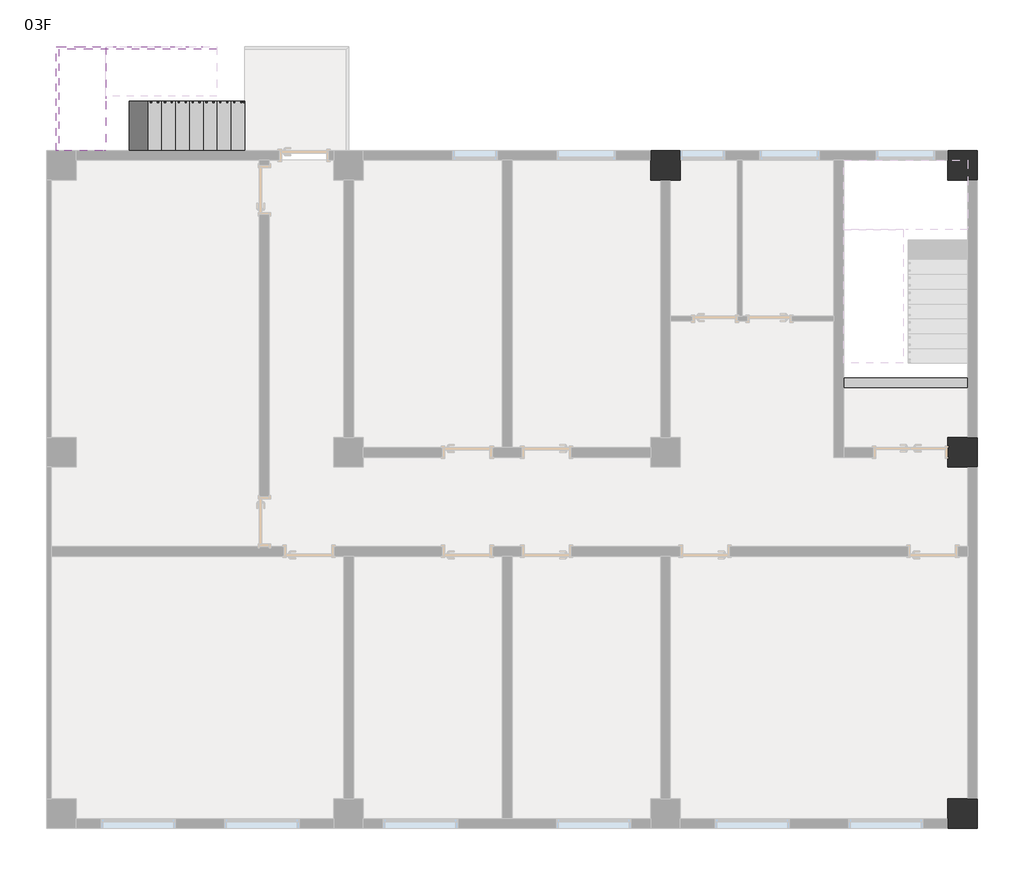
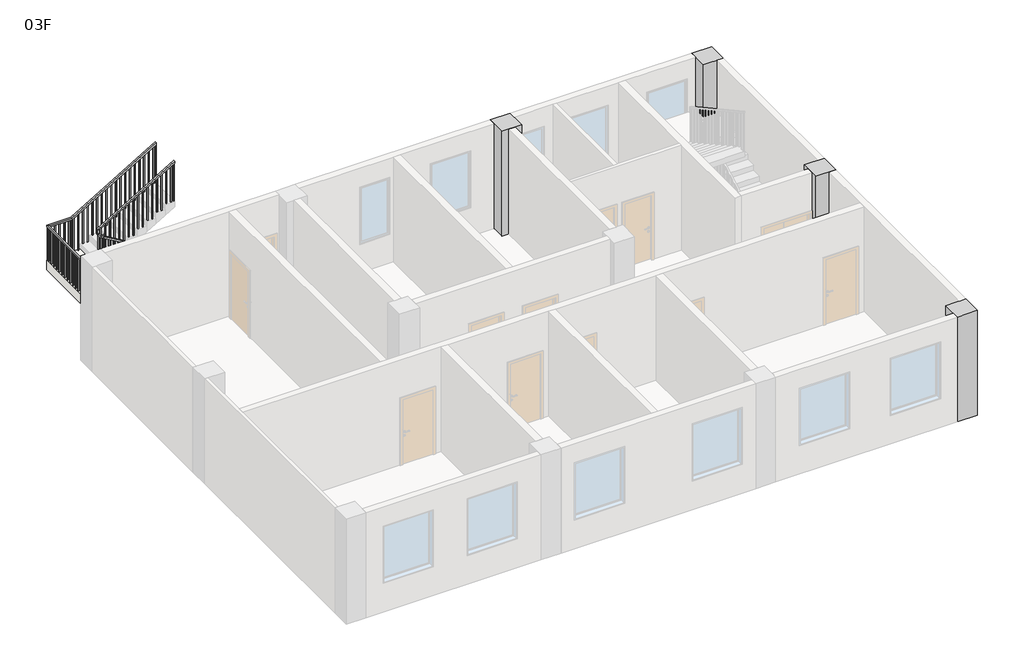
# One storey, part 2 of 3: 4 columns, 2 railings, 1 beam, 1 slab, 1 stair flight.
"""IFC4 building model written with IfcOpenShell, lengths in millimetres."""

from ifc_helpers import new_model, si_unit, frame, origin, place, context, project, spatial, polyline, outline, extrude, faceted_brep, transform, mapped, element, save
from components import beam_200_x_350mm_bc6e23a3, column_600_x_600mm_15ef50ab

model = new_model("IFC4")

# Units and contexts
model_context = context("Model", 3, world=origin())
ifc_project = project(units=[si_unit("LENGTHUNIT", "METRE", prefix="MILLI")], contexts=[model_context])

# Site, building, storey
site = spatial("IfcSite", under=ifc_project)
building = spatial("IfcBuilding", under=site)
storey = spatial("IfcBuildingStorey", under=building, Name="03F", Elevation=7200.0)

# Beam
placement = place(None, origin())
beam_200_x_350mm_shape = beam_200_x_350mm_bc6e23a3(model_context)
element("IfcBeam", 1, ObjectType="混凝土 - 矩形梁 : 200 x 350mm", at=placement, inside=storey, context=model_context, shape_type="MappedRepresentation", body=[
    mapped(beam_200_x_350mm_shape, transform((17250.0, 8900.0, 7025.0), x_axis=(1.0, 0.0, 0.0), y_axis=(0.0, 1.0, 0.0), z_axis=(0.0, 0.0, 1.0))),
])

# Columns
column_600_x_600mm_shape = column_600_x_600mm_15ef50ab(model_context)
element("IfcColumn", 2, ObjectType="混凝土 - 矩形 - 柱 : 600 x 600mm", at=placement, inside=storey, context=model_context, shape_type="MappedRepresentation", body=[
    mapped(column_600_x_600mm_shape, transform((12400.0, 13300.0, 0.0), x_axis=(1.0, 0.0, 0.0), y_axis=(0.0, 1.0, 0.0), z_axis=(0.0, 0.0, 1.0))),
])
element("IfcColumn", 3, ObjectType="混凝土 - 矩形 - 柱 : 600 x 600mm", at=placement, inside=storey, context=model_context, shape_type="MappedRepresentation", body=[
    mapped(column_600_x_600mm_shape, transform((18400.0, 13300.0, 0.0), x_axis=(1.0, 0.0, 0.0), y_axis=(0.0, 1.0, 0.0), z_axis=(0.0, 0.0, 1.0))),
])
element("IfcColumn", 4, ObjectType="混凝土 - 矩形 - 柱 : 600 x 600mm", at=placement, inside=storey, context=model_context, shape_type="MappedRepresentation", body=[
    mapped(column_600_x_600mm_shape, transform((18400.0, 7500.0, 0.0), x_axis=(1.0, 0.0, 0.0), y_axis=(0.0, 1.0, 0.0), z_axis=(0.0, 0.0, 1.0))),
])
element("IfcColumn", 5, ObjectType="混凝土 - 矩形 - 柱 : 600 x 600mm", at=placement, inside=storey, context=model_context, shape_type="MappedRepresentation", body=[
    mapped(column_600_x_600mm_shape, transform((18400.0, 200.0, 0.0), x_axis=(1.0, 0.0, 0.0), y_axis=(0.0, 1.0, 0.0), z_axis=(0.0, 0.0, 1.0))),
])

# Railings
element("IfcRailing", 6, ObjectType="1100mm", at=placement, inside=storey, context=model_context, shape_type="SolidModel", body=[
    faceted_brep([(3900.0, 14549.6, 8465.0), (3900.0, 14549.6, 8406.9642857), (3900.0, 14599.6, 8406.9642857), (3900.0, 14599.6, 8465.0), (1174.6, 14549.6, 10071.0392857), (1124.6, 14549.6, 10042.4678571), (1124.6, 14599.6, 10042.4678571), (1174.6, 14599.6, 10071.0392857), (1174.6, 14549.6, 10115.0), (1124.6, 14549.6, 10065.0), (1124.6, 14599.6, 10065.0), (1174.6, 14599.6, 10115.0), (1049.6, 14549.6, 10115.0), (1049.6, 14549.6, 10065.0), (1099.6, 14599.6, 10065.0), (1099.6, 14599.6, 10115.0), (1049.6, 14674.6, 10115.0), (1049.6, 14674.6, 10065.0), (1099.6, 14674.6, 10065.0), (1099.6, 14674.6, 10115.0), (1049.6, 14700.4, 10115.0), (1099.6, 14700.4, 10115.0), (1099.6, 14750.4, 10065.0), (1049.6, 14750.4, 10065.0)], [[[0, 1, 2, 3]], [[1, 0, 4, 5]], [[2, 1, 5, 6]], [[3, 2, 6, 7]], [[0, 3, 7, 4]], [[5, 4, 8, 9]], [[6, 5, 9, 10]], [[7, 6, 10, 11]], [[4, 7, 11, 8]], [[9, 8, 12, 13]], [[10, 9, 13, 14]], [[11, 10, 14, 15]], [[8, 11, 15, 12]], [[13, 12, 16, 17]], [[14, 13, 17, 18]], [[15, 14, 18, 19]], [[12, 15, 19, 16]], [[20, 21, 22, 23]], [[17, 16, 20, 23]], [[18, 17, 23, 22]], [[19, 18, 22, 21]], [[16, 19, 21, 20]]]),
    faceted_brep([(1049.6, 14700.4, 10115.0), (1049.6, 14750.4, 10065.0), (1099.6, 14750.4, 10065.0), (1099.6, 14700.4, 10115.0), (1049.6, 14700.4, 10250.3), (1099.6, 14700.4, 10221.7285714), (1099.6, 14750.4, 10221.7285714), (1049.6, 14750.4, 10250.3)], [[[0, 1, 2, 3]], [[4, 5, 6, 7]], [[1, 0, 4, 7]], [[2, 1, 7, 6]], [[3, 2, 6, 5]], [[0, 3, 5, 4]]]),
    faceted_brep([(1049.6, 14750.4, 10250.3), (1099.6, 14750.4, 10221.7285714), (1099.6, 14700.4, 10221.7285714), (1049.6, 14700.4, 10250.3), (3340.0, 14750.4, 11600.0), (3340.0, 14700.4, 11600.0), (3340.0, 14700.4, 11541.9642857), (3340.0, 14750.4, 11541.9642857)], [[[0, 1, 2, 3]], [[4, 5, 6, 7]], [[1, 0, 4, 7]], [[2, 1, 7, 6]], [[3, 2, 6, 5]], [[0, 3, 5, 4]]]),
    extrude(outline(polyline([(11478.3803571, 3232.1), (10335.0, 3232.1), (10335.0, 3257.1), (11493.1125, 3257.1), (11478.3803571, 3232.1)])), frame((0.0, 14712.9, 0.0), z_axis=(0.0, 1.0, 0.0), x_axis=(0.0, 0.0, 1.0)), (0.0, 0.0, 1.0), 25.0),
    extrude(outline(polyline([(11395.8803571, 3092.1), (10335.0, 3092.1), (10335.0, 3117.1), (11410.6125, 3117.1), (11395.8803571, 3092.1)])), frame((0.0, 14712.9, 0.0), z_axis=(0.0, 1.0, 0.0), x_axis=(0.0, 0.0, 1.0)), (0.0, 0.0, 1.0), 25.0),
    extrude(outline(polyline([(11313.3803571, 2952.1), (10170.0, 2952.1), (10170.0, 2977.1), (11328.1125, 2977.1), (11313.3803571, 2952.1)])), frame((0.0, 14712.9, 0.0), z_axis=(0.0, 1.0, 0.0), x_axis=(0.0, 0.0, 1.0)), (0.0, 0.0, 1.0), 25.0),
    extrude(outline(polyline([(11230.8803571, 2812.1), (10170.0, 2812.1), (10170.0, 2837.1), (11245.6125, 2837.1), (11230.8803571, 2812.1)])), frame((0.0, 14712.9, 0.0), z_axis=(0.0, 1.0, 0.0), x_axis=(0.0, 0.0, 1.0)), (0.0, 0.0, 1.0), 25.0),
    extrude(outline(polyline([(11148.3803571, 2672.1), (10005.0, 2672.1), (10005.0, 2697.1), (11163.1125, 2697.1), (11148.3803571, 2672.1)])), frame((0.0, 14712.9, 0.0), z_axis=(0.0, 1.0, 0.0), x_axis=(0.0, 0.0, 1.0)), (0.0, 0.0, 1.0), 25.0),
    extrude(outline(polyline([(11065.8803571, 2532.1), (10005.0, 2532.1), (10005.0, 2557.1), (11080.6125, 2557.1), (11065.8803571, 2532.1)])), frame((0.0, 14712.9, 0.0), z_axis=(0.0, 1.0, 0.0), x_axis=(0.0, 0.0, 1.0)), (0.0, 0.0, 1.0), 25.0),
    extrude(outline(polyline([(10983.3803571, 2392.1), (9840.0, 2392.1), (9840.0, 2417.1), (10998.1125, 2417.1), (10983.3803571, 2392.1)])), frame((0.0, 14712.9, 0.0), z_axis=(0.0, 1.0, 0.0), x_axis=(0.0, 0.0, 1.0)), (0.0, 0.0, 1.0), 25.0),
    extrude(outline(polyline([(10900.8803571, 2252.1), (9840.0, 2252.1), (9840.0, 2277.1), (10915.6125, 2277.1), (10900.8803571, 2252.1)])), frame((0.0, 14712.9, 0.0), z_axis=(0.0, 1.0, 0.0), x_axis=(0.0, 0.0, 1.0)), (0.0, 0.0, 1.0), 25.0),
    extrude(outline(polyline([(10818.3803571, 2112.1), (9675.0, 2112.1), (9675.0, 2137.1), (10833.1125, 2137.1), (10818.3803571, 2112.1)])), frame((0.0, 14712.9, 0.0), z_axis=(0.0, 1.0, 0.0), x_axis=(0.0, 0.0, 1.0)), (0.0, 0.0, 1.0), 25.0),
    extrude(outline(polyline([(10735.8803571, 1972.1), (9675.0, 1972.1), (9675.0, 1997.1), (10750.6125, 1997.1), (10735.8803571, 1972.1)])), frame((0.0, 14712.9, 0.0), z_axis=(0.0, 1.0, 0.0), x_axis=(0.0, 0.0, 1.0)), (0.0, 0.0, 1.0), 25.0),
    extrude(outline(polyline([(10653.3803571, 1832.1), (9510.0, 1832.1), (9510.0, 1857.1), (10668.1125, 1857.1), (10653.3803571, 1832.1)])), frame((0.0, 14712.9, 0.0), z_axis=(0.0, 1.0, 0.0), x_axis=(0.0, 0.0, 1.0)), (0.0, 0.0, 1.0), 25.0),
    extrude(outline(polyline([(10570.8803571, 1692.1), (9510.0, 1692.1), (9510.0, 1717.1), (10585.6125, 1717.1), (10570.8803571, 1692.1)])), frame((0.0, 14712.9, 0.0), z_axis=(0.0, 1.0, 0.0), x_axis=(0.0, 0.0, 1.0)), (0.0, 0.0, 1.0), 25.0),
    extrude(outline(polyline([(10488.3803571, 1552.1), (9345.0, 1552.1), (9345.0, 1577.1), (10503.1125, 1577.1), (10488.3803571, 1552.1)])), frame((0.0, 14712.9, 0.0), z_axis=(0.0, 1.0, 0.0), x_axis=(0.0, 0.0, 1.0)), (0.0, 0.0, 1.0), 25.0),
    extrude(outline(polyline([(10405.8803571, 1412.1), (9345.0, 1412.1), (9345.0, 1437.1), (10420.6125, 1437.1), (10405.8803571, 1412.1)])), frame((0.0, 14712.9, 0.0), z_axis=(0.0, 1.0, 0.0), x_axis=(0.0, 0.0, 1.0)), (0.0, 0.0, 1.0), 25.0),
    extrude(outline(polyline([(10323.3803571, 1272.1), (9180.0, 1272.1), (9180.0, 1297.1), (10338.1125, 1297.1), (10323.3803571, 1272.1)])), frame((0.0, 14712.9, 0.0), z_axis=(0.0, 1.0, 0.0), x_axis=(0.0, 0.0, 1.0)), (0.0, 0.0, 1.0), 25.0),
    extrude(outline(polyline([(10240.8803571, 1132.1), (9180.0, 1132.1), (9180.0, 1157.1), (10255.6125, 1157.1), (10240.8803571, 1132.1)])), frame((0.0, 14712.9, 0.0), z_axis=(0.0, 1.0, 0.0), x_axis=(0.0, 0.0, 1.0)), (0.0, 0.0, 1.0), 25.0),
    extrude(outline(polyline([(1087.1, 14632.1), (1062.1, 14632.1), (1062.1, 14657.1), (1087.1, 14657.1), (1087.1, 14632.1)])), frame((0.0, 0.0, 9015.0), z_axis=(0.0, 0.0, 1.0), x_axis=(1.0, 0.0, 0.0)), (0.0, 0.0, 1.0), 1050.0),
    extrude(outline(polyline([(8850.0, 1182.5), (10008.3482143, 1182.5), (10023.0803571, 1157.5), (8850.0, 1157.5), (8850.0, 1182.5)])), frame((0.0, 14562.1, 0.0), z_axis=(0.0, 1.0, 0.0), x_axis=(0.0, 0.0, 1.0)), (0.0, 0.0, 1.0), 25.0),
    extrude(outline(polyline([(8850.0, 1322.5), (9925.8482143, 1322.5), (9940.5803571, 1297.5), (8850.0, 1297.5), (8850.0, 1322.5)])), frame((0.0, 14562.1, 0.0), z_axis=(0.0, 1.0, 0.0), x_axis=(0.0, 0.0, 1.0)), (0.0, 0.0, 1.0), 25.0),
    extrude(outline(polyline([(8685.0, 1462.5), (9843.3482143, 1462.5), (9858.0803571, 1437.5), (8685.0, 1437.5), (8685.0, 1462.5)])), frame((0.0, 14562.1, 0.0), z_axis=(0.0, 1.0, 0.0), x_axis=(0.0, 0.0, 1.0)), (0.0, 0.0, 1.0), 25.0),
    extrude(outline(polyline([(8685.0, 1602.5), (9760.8482143, 1602.5), (9775.5803571, 1577.5), (8685.0, 1577.5), (8685.0, 1602.5)])), frame((0.0, 14562.1, 0.0), z_axis=(0.0, 1.0, 0.0), x_axis=(0.0, 0.0, 1.0)), (0.0, 0.0, 1.0), 25.0),
    extrude(outline(polyline([(8520.0, 1742.5), (9678.3482143, 1742.5), (9693.0803571, 1717.5), (8520.0, 1717.5), (8520.0, 1742.5)])), frame((0.0, 14562.1, 0.0), z_axis=(0.0, 1.0, 0.0), x_axis=(0.0, 0.0, 1.0)), (0.0, 0.0, 1.0), 25.0),
    extrude(outline(polyline([(8520.0, 1882.5), (9595.8482143, 1882.5), (9610.5803571, 1857.5), (8520.0, 1857.5), (8520.0, 1882.5)])), frame((0.0, 14562.1, 0.0), z_axis=(0.0, 1.0, 0.0), x_axis=(0.0, 0.0, 1.0)), (0.0, 0.0, 1.0), 25.0),
    extrude(outline(polyline([(8355.0, 2022.5), (9513.3482143, 2022.5), (9528.0803571, 1997.5), (8355.0, 1997.5), (8355.0, 2022.5)])), frame((0.0, 14562.1, 0.0), z_axis=(0.0, 1.0, 0.0), x_axis=(0.0, 0.0, 1.0)), (0.0, 0.0, 1.0), 25.0),
    extrude(outline(polyline([(8355.0, 2162.5), (9430.8482143, 2162.5), (9445.5803571, 2137.5), (8355.0, 2137.5), (8355.0, 2162.5)])), frame((0.0, 14562.1, 0.0), z_axis=(0.0, 1.0, 0.0), x_axis=(0.0, 0.0, 1.0)), (0.0, 0.0, 1.0), 25.0),
    extrude(outline(polyline([(8190.0, 2302.5), (9348.3482143, 2302.5), (9363.0803571, 2277.5), (8190.0, 2277.5), (8190.0, 2302.5)])), frame((0.0, 14562.1, 0.0), z_axis=(0.0, 1.0, 0.0), x_axis=(0.0, 0.0, 1.0)), (0.0, 0.0, 1.0), 25.0),
    extrude(outline(polyline([(8190.0, 2442.5), (9265.8482143, 2442.5), (9280.5803571, 2417.5), (8190.0, 2417.5), (8190.0, 2442.5)])), frame((0.0, 14562.1, 0.0), z_axis=(0.0, 1.0, 0.0), x_axis=(0.0, 0.0, 1.0)), (0.0, 0.0, 1.0), 25.0),
    extrude(outline(polyline([(8025.0, 2582.5), (9183.3482143, 2582.5), (9198.0803571, 2557.5), (8025.0, 2557.5), (8025.0, 2582.5)])), frame((0.0, 14562.1, 0.0), z_axis=(0.0, 1.0, 0.0), x_axis=(0.0, 0.0, 1.0)), (0.0, 0.0, 1.0), 25.0),
    extrude(outline(polyline([(8025.0, 2722.5), (9100.8482143, 2722.5), (9115.5803571, 2697.5), (8025.0, 2697.5), (8025.0, 2722.5)])), frame((0.0, 14562.1, 0.0), z_axis=(0.0, 1.0, 0.0), x_axis=(0.0, 0.0, 1.0)), (0.0, 0.0, 1.0), 25.0),
    extrude(outline(polyline([(7860.0, 2862.5), (9018.3482143, 2862.5), (9033.0803571, 2837.5), (7860.0, 2837.5), (7860.0, 2862.5)])), frame((0.0, 14562.1, 0.0), z_axis=(0.0, 1.0, 0.0), x_axis=(0.0, 0.0, 1.0)), (0.0, 0.0, 1.0), 25.0),
    extrude(outline(polyline([(7860.0, 3002.5), (8935.8482143, 3002.5), (8950.5803571, 2977.5), (7860.0, 2977.5), (7860.0, 3002.5)])), frame((0.0, 14562.1, 0.0), z_axis=(0.0, 1.0, 0.0), x_axis=(0.0, 0.0, 1.0)), (0.0, 0.0, 1.0), 25.0),
    extrude(outline(polyline([(7695.0, 3142.5), (8853.3482143, 3142.5), (8868.0803571, 3117.5), (7695.0, 3117.5), (7695.0, 3142.5)])), frame((0.0, 14562.1, 0.0), z_axis=(0.0, 1.0, 0.0), x_axis=(0.0, 0.0, 1.0)), (0.0, 0.0, 1.0), 25.0),
    extrude(outline(polyline([(7695.0, 3282.5), (8770.8482143, 3282.5), (8785.5803571, 3257.5), (7695.0, 3257.5), (7695.0, 3282.5)])), frame((0.0, 14562.1, 0.0), z_axis=(0.0, 1.0, 0.0), x_axis=(0.0, 0.0, 1.0)), (0.0, 0.0, 1.0), 25.0),
    extrude(outline(polyline([(7530.0, 3422.5), (8688.3482143, 3422.5), (8703.0803571, 3397.5), (7530.0, 3397.5), (7530.0, 3422.5)])), frame((0.0, 14562.1, 0.0), z_axis=(0.0, 1.0, 0.0), x_axis=(0.0, 0.0, 1.0)), (0.0, 0.0, 1.0), 25.0),
    extrude(outline(polyline([(7530.0, 3562.5), (8605.8482143, 3562.5), (8620.5803571, 3537.5), (7530.0, 3537.5), (7530.0, 3562.5)])), frame((0.0, 14562.1, 0.0), z_axis=(0.0, 1.0, 0.0), x_axis=(0.0, 0.0, 1.0)), (0.0, 0.0, 1.0), 25.0),
    extrude(outline(polyline([(7365.0, 3702.5), (8523.3482143, 3702.5), (8538.0803571, 3677.5), (7365.0, 3677.5), (7365.0, 3702.5)])), frame((0.0, 14562.1, 0.0), z_axis=(0.0, 1.0, 0.0), x_axis=(0.0, 0.0, 1.0)), (0.0, 0.0, 1.0), 25.0),
    extrude(outline(polyline([(7365.0, 3842.5), (8440.8482143, 3842.5), (8455.5803571, 3817.5), (7365.0, 3817.5), (7365.0, 3842.5)])), frame((0.0, 14562.1, 0.0), z_axis=(0.0, 1.0, 0.0), x_axis=(0.0, 0.0, 1.0)), (0.0, 0.0, 1.0), 25.0),
    extrude(outline(polyline([(1062.1, 14712.9), (1062.1, 14737.9), (1087.1, 14737.9), (1087.1, 14712.9), (1062.1, 14712.9)])), frame((0.0, 0.0, 9015.0), z_axis=(0.0, 0.0, 1.0), x_axis=(1.0, 0.0, 0.0)), (0.0, 0.0, 1.0), 1050.0),
    extrude(outline(polyline([(1087.1, 14587.1), (1087.1, 14562.1), (1062.1, 14562.1), (1062.1, 14587.1), (1087.1, 14587.1)])), frame((0.0, 0.0, 9015.0), z_axis=(0.0, 0.0, 1.0), x_axis=(1.0, 0.0, 0.0)), (0.0, 0.0, 1.0), 1050.0),
    extrude(outline(polyline([(1112.5, 14587.1), (1112.5, 14562.1), (1087.5, 14562.1), (1087.5, 14587.1), (1112.5, 14587.1)])), frame((0.0, 0.0, 9015.0), z_axis=(0.0, 0.0, 1.0), x_axis=(1.0, 0.0, 0.0)), (0.0, 0.0, 1.0), 1050.0),
    extrude(outline(polyline([(11527.2321429, 3315.0), (10335.0, 3315.0), (10335.0, 3340.0), (11541.9642857, 3340.0), (11527.2321429, 3315.0)])), frame((0.0, 14712.9, 0.0), z_axis=(0.0, 1.0, 0.0), x_axis=(0.0, 0.0, 1.0)), (0.0, 0.0, 1.0), 25.0),
    extrude(outline(polyline([(7365.0, 3900.0), (8406.9642857, 3900.0), (8421.6964286, 3875.0), (7365.0, 3875.0), (7365.0, 3900.0)])), frame((0.0, 14562.1, 0.0), z_axis=(0.0, 1.0, 0.0), x_axis=(0.0, 0.0, 1.0)), (0.0, 0.0, 1.0), 25.0),
])
element("IfcRailing", 7, ObjectType="1100mm", at=placement, inside=storey, context=model_context, shape_type="SolidModel", body=[
    faceted_brep([(100.4, 13600.0, 10115.0), (100.4, 13600.0, 10065.0), (150.4, 13600.0, 10065.0), (150.4, 13600.0, 10115.0), (100.4, 15699.6, 10115.0), (100.4, 15699.6, 10065.0), (150.4, 15649.6, 10065.0), (150.4, 15649.6, 10115.0), (820.0, 15699.6, 10115.0), (833.6363636, 15699.6, 10065.0), (833.6363636, 15649.6, 10065.0), (820.0, 15649.6, 10115.0), (3340.0, 15699.6, 11600.0), (3340.0, 15649.6, 11600.0), (3340.0, 15649.6, 11541.9642857), (3340.0, 15699.6, 11541.9642857)], [[[0, 1, 2, 3]], [[1, 0, 4, 5]], [[2, 1, 5, 6]], [[3, 2, 6, 7]], [[0, 3, 7, 4]], [[5, 4, 8, 9]], [[6, 5, 9, 10]], [[7, 6, 10, 11]], [[4, 7, 11, 8]], [[12, 13, 14, 15]], [[9, 8, 12, 15]], [[10, 9, 15, 14]], [[11, 10, 14, 13]], [[8, 11, 13, 12]]]),
    extrude(outline(polyline([(10335.0, 3257.5), (10335.0, 3282.5), (11508.0803571, 3282.5), (11493.3482143, 3257.5), (10335.0, 3257.5)])), frame((0.0, 15662.1, 0.0), z_axis=(0.0, 1.0, 0.0), x_axis=(0.0, 0.0, 1.0)), (0.0, 0.0, 1.0), 25.0),
    extrude(outline(polyline([(10335.0, 3117.5), (10335.0, 3142.5), (11425.5803571, 3142.5), (11410.8482143, 3117.5), (10335.0, 3117.5)])), frame((0.0, 15662.1, 0.0), z_axis=(0.0, 1.0, 0.0), x_axis=(0.0, 0.0, 1.0)), (0.0, 0.0, 1.0), 25.0),
    extrude(outline(polyline([(10170.0, 2977.5), (10170.0, 3002.5), (11343.0803571, 3002.5), (11328.3482143, 2977.5), (10170.0, 2977.5)])), frame((0.0, 15662.1, 0.0), z_axis=(0.0, 1.0, 0.0), x_axis=(0.0, 0.0, 1.0)), (0.0, 0.0, 1.0), 25.0),
    extrude(outline(polyline([(10170.0, 2837.5), (10170.0, 2862.5), (11260.5803571, 2862.5), (11245.8482143, 2837.5), (10170.0, 2837.5)])), frame((0.0, 15662.1, 0.0), z_axis=(0.0, 1.0, 0.0), x_axis=(0.0, 0.0, 1.0)), (0.0, 0.0, 1.0), 25.0),
    extrude(outline(polyline([(10005.0, 2697.5), (10005.0, 2722.5), (11178.0803571, 2722.5), (11163.3482143, 2697.5), (10005.0, 2697.5)])), frame((0.0, 15662.1, 0.0), z_axis=(0.0, 1.0, 0.0), x_axis=(0.0, 0.0, 1.0)), (0.0, 0.0, 1.0), 25.0),
    extrude(outline(polyline([(10005.0, 2557.5), (10005.0, 2582.5), (11095.5803571, 2582.5), (11080.8482143, 2557.5), (10005.0, 2557.5)])), frame((0.0, 15662.1, 0.0), z_axis=(0.0, 1.0, 0.0), x_axis=(0.0, 0.0, 1.0)), (0.0, 0.0, 1.0), 25.0),
    extrude(outline(polyline([(9840.0, 2417.5), (9840.0, 2442.5), (11013.0803571, 2442.5), (10998.3482143, 2417.5), (9840.0, 2417.5)])), frame((0.0, 15662.1, 0.0), z_axis=(0.0, 1.0, 0.0), x_axis=(0.0, 0.0, 1.0)), (0.0, 0.0, 1.0), 25.0),
    extrude(outline(polyline([(9840.0, 2277.5), (9840.0, 2302.5), (10930.5803571, 2302.5), (10915.8482143, 2277.5), (9840.0, 2277.5)])), frame((0.0, 15662.1, 0.0), z_axis=(0.0, 1.0, 0.0), x_axis=(0.0, 0.0, 1.0)), (0.0, 0.0, 1.0), 25.0),
    extrude(outline(polyline([(9675.0, 2137.5), (9675.0, 2162.5), (10848.0803571, 2162.5), (10833.3482143, 2137.5), (9675.0, 2137.5)])), frame((0.0, 15662.1, 0.0), z_axis=(0.0, 1.0, 0.0), x_axis=(0.0, 0.0, 1.0)), (0.0, 0.0, 1.0), 25.0),
    extrude(outline(polyline([(9675.0, 1997.5), (9675.0, 2022.5), (10765.5803571, 2022.5), (10750.8482143, 1997.5), (9675.0, 1997.5)])), frame((0.0, 15662.1, 0.0), z_axis=(0.0, 1.0, 0.0), x_axis=(0.0, 0.0, 1.0)), (0.0, 0.0, 1.0), 25.0),
    extrude(outline(polyline([(9510.0, 1857.5), (9510.0, 1882.5), (10683.0803571, 1882.5), (10668.3482143, 1857.5), (9510.0, 1857.5)])), frame((0.0, 15662.1, 0.0), z_axis=(0.0, 1.0, 0.0), x_axis=(0.0, 0.0, 1.0)), (0.0, 0.0, 1.0), 25.0),
    extrude(outline(polyline([(9510.0, 1717.5), (9510.0, 1742.5), (10600.5803571, 1742.5), (10585.8482143, 1717.5), (9510.0, 1717.5)])), frame((0.0, 15662.1, 0.0), z_axis=(0.0, 1.0, 0.0), x_axis=(0.0, 0.0, 1.0)), (0.0, 0.0, 1.0), 25.0),
    extrude(outline(polyline([(9345.0, 1577.5), (9345.0, 1602.5), (10518.0803571, 1602.5), (10503.3482143, 1577.5), (9345.0, 1577.5)])), frame((0.0, 15662.1, 0.0), z_axis=(0.0, 1.0, 0.0), x_axis=(0.0, 0.0, 1.0)), (0.0, 0.0, 1.0), 25.0),
    extrude(outline(polyline([(9345.0, 1437.5), (9345.0, 1462.5), (10435.5803571, 1462.5), (10420.8482143, 1437.5), (9345.0, 1437.5)])), frame((0.0, 15662.1, 0.0), z_axis=(0.0, 1.0, 0.0), x_axis=(0.0, 0.0, 1.0)), (0.0, 0.0, 1.0), 25.0),
    extrude(outline(polyline([(9180.0, 1297.5), (9180.0, 1322.5), (10353.0803571, 1322.5), (10338.3482143, 1297.5), (9180.0, 1297.5)])), frame((0.0, 15662.1, 0.0), z_axis=(0.0, 1.0, 0.0), x_axis=(0.0, 0.0, 1.0)), (0.0, 0.0, 1.0), 25.0),
    extrude(outline(polyline([(9180.0, 1157.5), (9180.0, 1182.5), (10270.5803571, 1182.5), (10255.8482143, 1157.5), (9180.0, 1157.5)])), frame((0.0, 15662.1, 0.0), z_axis=(0.0, 1.0, 0.0), x_axis=(0.0, 0.0, 1.0)), (0.0, 0.0, 1.0), 25.0),
    extrude(outline(polyline([(9015.0, 1017.5), (9015.0, 1042.5), (10188.0803571, 1042.5), (10173.3482143, 1017.5), (9015.0, 1017.5)])), frame((0.0, 15662.1, 0.0), z_axis=(0.0, 1.0, 0.0), x_axis=(0.0, 0.0, 1.0)), (0.0, 0.0, 1.0), 25.0),
    extrude(outline(polyline([(9015.0, 877.5), (9015.0, 902.5), (10105.5803571, 902.5), (10090.8482143, 877.5), (9015.0, 877.5)])), frame((0.0, 15662.1, 0.0), z_axis=(0.0, 1.0, 0.0), x_axis=(0.0, 0.0, 1.0)), (0.0, 0.0, 1.0), 25.0),
    extrude(outline(polyline([(742.9, 15687.1), (767.9, 15687.1), (767.9, 15662.1), (742.9, 15662.1), (742.9, 15687.1)])), frame((0.0, 0.0, 9015.0), z_axis=(0.0, 0.0, 1.0), x_axis=(1.0, 0.0, 0.0)), (0.0, 0.0, 1.0), 1050.0),
    extrude(outline(polyline([(602.9, 15687.1), (627.9, 15687.1), (627.9, 15662.1), (602.9, 15662.1), (602.9, 15687.1)])), frame((0.0, 0.0, 9015.0), z_axis=(0.0, 0.0, 1.0), x_axis=(1.0, 0.0, 0.0)), (0.0, 0.0, 1.0), 1050.0),
    extrude(outline(polyline([(462.9, 15687.1), (487.9, 15687.1), (487.9, 15662.1), (462.9, 15662.1), (462.9, 15687.1)])), frame((0.0, 0.0, 9015.0), z_axis=(0.0, 0.0, 1.0), x_axis=(1.0, 0.0, 0.0)), (0.0, 0.0, 1.0), 1050.0),
    extrude(outline(polyline([(322.9, 15687.1), (347.9, 15687.1), (347.9, 15662.1), (322.9, 15662.1), (322.9, 15687.1)])), frame((0.0, 0.0, 9015.0), z_axis=(0.0, 0.0, 1.0), x_axis=(1.0, 0.0, 0.0)), (0.0, 0.0, 1.0), 1050.0),
    extrude(outline(polyline([(182.9, 15687.1), (207.9, 15687.1), (207.9, 15662.1), (182.9, 15662.1), (182.9, 15687.1)])), frame((0.0, 0.0, 9015.0), z_axis=(0.0, 0.0, 1.0), x_axis=(1.0, 0.0, 0.0)), (0.0, 0.0, 1.0), 1050.0),
    extrude(outline(polyline([(112.9, 15617.5), (112.9, 15642.5), (137.9, 15642.5), (137.9, 15617.5), (112.9, 15617.5)])), frame((0.0, 0.0, 9015.0), z_axis=(0.0, 0.0, 1.0), x_axis=(1.0, 0.0, 0.0)), (0.0, 0.0, 1.0), 1050.0),
    extrude(outline(polyline([(112.9, 15477.5), (112.9, 15502.5), (137.9, 15502.5), (137.9, 15477.5), (112.9, 15477.5)])), frame((0.0, 0.0, 9015.0), z_axis=(0.0, 0.0, 1.0), x_axis=(1.0, 0.0, 0.0)), (0.0, 0.0, 1.0), 1050.0),
    extrude(outline(polyline([(112.9, 15337.5), (112.9, 15362.5), (137.9, 15362.5), (137.9, 15337.5), (112.9, 15337.5)])), frame((0.0, 0.0, 9015.0), z_axis=(0.0, 0.0, 1.0), x_axis=(1.0, 0.0, 0.0)), (0.0, 0.0, 1.0), 1050.0),
    extrude(outline(polyline([(112.9, 15197.5), (112.9, 15222.5), (137.9, 15222.5), (137.9, 15197.5), (112.9, 15197.5)])), frame((0.0, 0.0, 9015.0), z_axis=(0.0, 0.0, 1.0), x_axis=(1.0, 0.0, 0.0)), (0.0, 0.0, 1.0), 1050.0),
    extrude(outline(polyline([(112.9, 15057.5), (112.9, 15082.5), (137.9, 15082.5), (137.9, 15057.5), (112.9, 15057.5)])), frame((0.0, 0.0, 9015.0), z_axis=(0.0, 0.0, 1.0), x_axis=(1.0, 0.0, 0.0)), (0.0, 0.0, 1.0), 1050.0),
    extrude(outline(polyline([(112.9, 14917.5), (112.9, 14942.5), (137.9, 14942.5), (137.9, 14917.5), (112.9, 14917.5)])), frame((0.0, 0.0, 9015.0), z_axis=(0.0, 0.0, 1.0), x_axis=(1.0, 0.0, 0.0)), (0.0, 0.0, 1.0), 1050.0),
    extrude(outline(polyline([(112.9, 14777.5), (112.9, 14802.5), (137.9, 14802.5), (137.9, 14777.5), (112.9, 14777.5)])), frame((0.0, 0.0, 9015.0), z_axis=(0.0, 0.0, 1.0), x_axis=(1.0, 0.0, 0.0)), (0.0, 0.0, 1.0), 1050.0),
    extrude(outline(polyline([(112.9, 14637.5), (112.9, 14662.5), (137.9, 14662.5), (137.9, 14637.5), (112.9, 14637.5)])), frame((0.0, 0.0, 9015.0), z_axis=(0.0, 0.0, 1.0), x_axis=(1.0, 0.0, 0.0)), (0.0, 0.0, 1.0), 1050.0),
    extrude(outline(polyline([(112.9, 14497.5), (112.9, 14522.5), (137.9, 14522.5), (137.9, 14497.5), (112.9, 14497.5)])), frame((0.0, 0.0, 9015.0), z_axis=(0.0, 0.0, 1.0), x_axis=(1.0, 0.0, 0.0)), (0.0, 0.0, 1.0), 1050.0),
    extrude(outline(polyline([(112.9, 14357.5), (112.9, 14382.5), (137.9, 14382.5), (137.9, 14357.5), (112.9, 14357.5)])), frame((0.0, 0.0, 9015.0), z_axis=(0.0, 0.0, 1.0), x_axis=(1.0, 0.0, 0.0)), (0.0, 0.0, 1.0), 1050.0),
    extrude(outline(polyline([(112.9, 14217.5), (112.9, 14242.5), (137.9, 14242.5), (137.9, 14217.5), (112.9, 14217.5)])), frame((0.0, 0.0, 9015.0), z_axis=(0.0, 0.0, 1.0), x_axis=(1.0, 0.0, 0.0)), (0.0, 0.0, 1.0), 1050.0),
    extrude(outline(polyline([(112.9, 14077.5), (112.9, 14102.5), (137.9, 14102.5), (137.9, 14077.5), (112.9, 14077.5)])), frame((0.0, 0.0, 9015.0), z_axis=(0.0, 0.0, 1.0), x_axis=(1.0, 0.0, 0.0)), (0.0, 0.0, 1.0), 1050.0),
    extrude(outline(polyline([(112.9, 13937.5), (112.9, 13962.5), (137.9, 13962.5), (137.9, 13937.5), (112.9, 13937.5)])), frame((0.0, 0.0, 9015.0), z_axis=(0.0, 0.0, 1.0), x_axis=(1.0, 0.0, 0.0)), (0.0, 0.0, 1.0), 1050.0),
    extrude(outline(polyline([(112.9, 13797.5), (112.9, 13822.5), (137.9, 13822.5), (137.9, 13797.5), (112.9, 13797.5)])), frame((0.0, 0.0, 9015.0), z_axis=(0.0, 0.0, 1.0), x_axis=(1.0, 0.0, 0.0)), (0.0, 0.0, 1.0), 1050.0),
    extrude(outline(polyline([(112.9, 13657.5), (112.9, 13682.5), (137.9, 13682.5), (137.9, 13657.5), (112.9, 13657.5)])), frame((0.0, 0.0, 9015.0), z_axis=(0.0, 0.0, 1.0), x_axis=(1.0, 0.0, 0.0)), (0.0, 0.0, 1.0), 1050.0),
    extrude(outline(polyline([(807.5, 15687.1), (832.5, 15687.1), (832.5, 15662.1), (807.5, 15662.1), (807.5, 15687.1)])), frame((0.0, 0.0, 9015.0), z_axis=(0.0, 0.0, 1.0), x_axis=(1.0, 0.0, 0.0)), (0.0, 0.0, 1.0), 1050.0),
    extrude(outline(polyline([(112.9, 15662.1), (112.9, 15687.1), (137.9, 15687.1), (137.9, 15662.1), (112.9, 15662.1)])), frame((0.0, 0.0, 9015.0), z_axis=(0.0, 0.0, 1.0), x_axis=(1.0, 0.0, 0.0)), (0.0, 0.0, 1.0), 1050.0),
    extrude(outline(polyline([(10335.0, 3315.0), (10335.0, 3340.0), (11541.9642857, 3340.0), (11527.2321429, 3315.0), (10335.0, 3315.0)])), frame((0.0, 15662.1, 0.0), z_axis=(0.0, 1.0, 0.0), x_axis=(0.0, 0.0, 1.0)), (0.0, 0.0, 1.0), 25.0),
    extrude(outline(polyline([(112.9, 13600.0), (112.9, 13625.0), (137.9, 13625.0), (137.9, 13600.0), (112.9, 13600.0)])), frame((0.0, 0.0, 9015.0), z_axis=(0.0, 0.0, 1.0), x_axis=(1.0, 0.0, 0.0)), (0.0, 0.0, 1.0), 1050.0),
])

# Slab
element("IfcSlab", 8, ObjectType="300mm 厚度", at=placement, inside=storey, context=model_context, shape_type="Brep", body=[
    faceted_brep([(1100.0, 13600.0, 9015.0), (1100.0, 14600.0, 9015.0), (1100.0, 14700.0, 9015.0), (1100.0, 15700.0, 9015.0), (886.3636364, 15700.0, 9015.0), (100.0, 15700.0, 9015.0), (100.0, 13600.0, 9015.0), (1033.6363636, 13600.0, 9015.0), (1100.0, 13600.0, 8850.0), (1100.0, 13600.0, 8675.8928571), (1100.0, 14600.0, 8675.8928571), (1100.0, 14600.0, 8715.0), (1100.0, 14700.0, 8715.0), (1100.0, 14700.0, 8840.8928571), (1100.0, 15700.0, 8840.8928571), (886.3636364, 15700.0, 8715.0), (100.0, 15700.0, 8715.0), (100.0, 13600.0, 8715.0), (1033.6363636, 13600.0, 8715.0), (886.3636364, 14700.0, 8715.0), (1033.6363636, 14600.0, 8715.0)], [[[0, 1, 2, 3, 4, 5, 6, 7]], [[1, 0, 8, 9, 10, 11]], [[2, 1, 11, 12, 13]], [[3, 2, 13, 14]], [[3, 14, 15, 16, 5, 4]], [[6, 5, 16, 17]], [[9, 8, 0, 7, 6, 17, 18]], [[19, 12, 11, 20, 18, 17, 16, 15]], [[12, 19, 13]], [[18, 20, 10, 9]], [[20, 11, 10]], [[19, 15, 14, 13]]]),
])

# Stair flight
element("IfcStairFlight", 9, ObjectType="150mm 结构深度", at=placement, inside=storey, context=model_context, shape_type="Brep", body=[
    faceted_brep([(3620.0, 13600.0, 7365.0), (3900.0, 13600.0, 7365.0), (3900.0, 14600.0, 7365.0), (3620.0, 14600.0, 7365.0), (3620.0, 13600.0, 7200.0), (3900.0, 13600.0, 7200.0), (3900.0, 14600.0, 7200.0), (3620.0, 14600.0, 7200.0), (3340.0, 13600.0, 7530.0), (3620.0, 13600.0, 7530.0), (3620.0, 14600.0, 7530.0), (3340.0, 14600.0, 7530.0), (3340.0, 13600.0, 7355.8928571), (3604.5454545, 13600.0, 7200.0), (3604.5454545, 14600.0, 7200.0), (3340.0, 14600.0, 7355.8928571), (3060.0, 13600.0, 7695.0), (3340.0, 13600.0, 7695.0), (3340.0, 14600.0, 7695.0), (3060.0, 14600.0, 7695.0), (3060.0, 13600.0, 7520.8928571), (3060.0, 14600.0, 7520.8928571), (2780.0, 13600.0, 7860.0), (3060.0, 13600.0, 7860.0), (3060.0, 14600.0, 7860.0), (2780.0, 14600.0, 7860.0), (2780.0, 13600.0, 7685.8928571), (2780.0, 14600.0, 7685.8928571), (2500.0, 13600.0, 8025.0), (2780.0, 13600.0, 8025.0), (2780.0, 14600.0, 8025.0), (2500.0, 14600.0, 8025.0), (2500.0, 13600.0, 7850.8928571), (2500.0, 14600.0, 7850.8928571), (2220.0, 13600.0, 8190.0), (2500.0, 13600.0, 8190.0), (2500.0, 14600.0, 8190.0), (2220.0, 14600.0, 8190.0), (2220.0, 13600.0, 8015.8928571), (2220.0, 14600.0, 8015.8928571), (1940.0, 13600.0, 8355.0), (2220.0, 13600.0, 8355.0), (2220.0, 14600.0, 8355.0), (1940.0, 14600.0, 8355.0), (1940.0, 13600.0, 8180.8928571), (1940.0, 14600.0, 8180.8928571), (1660.0, 13600.0, 8520.0), (1940.0, 13600.0, 8520.0), (1940.0, 14600.0, 8520.0), (1660.0, 14600.0, 8520.0), (1660.0, 13600.0, 8345.8928571), (1660.0, 14600.0, 8345.8928571), (1380.0, 13600.0, 8685.0), (1660.0, 13600.0, 8685.0), (1660.0, 14600.0, 8685.0), (1380.0, 14600.0, 8685.0), (1380.0, 13600.0, 8510.8928571), (1380.0, 14600.0, 8510.8928571), (1100.0, 13600.0, 8850.0), (1380.0, 13600.0, 8850.0), (1380.0, 14600.0, 8850.0), (1100.0, 14600.0, 8850.0), (1100.0, 13600.0, 8675.8928571), (1100.0, 14600.0, 8675.8928571), (1100.0, 14600.0, 8715.0)], [[[0, 1, 2, 3]], [[1, 0, 4, 5]], [[2, 1, 5, 6]], [[3, 2, 6, 7]], [[8, 9, 10, 11]], [[4, 0, 9, 8, 12, 13]], [[0, 3, 10, 9]], [[3, 7, 14, 15, 11, 10]], [[16, 17, 18, 19]], [[17, 16, 20, 12, 8]], [[8, 11, 18, 17]], [[19, 18, 11, 15, 21]], [[22, 23, 24, 25]], [[23, 22, 26, 20, 16]], [[16, 19, 24, 23]], [[25, 24, 19, 21, 27]], [[28, 29, 30, 31]], [[29, 28, 32, 26, 22]], [[22, 25, 30, 29]], [[31, 30, 25, 27, 33]], [[34, 35, 36, 37]], [[35, 34, 38, 32, 28]], [[28, 31, 36, 35]], [[37, 36, 31, 33, 39]], [[40, 41, 42, 43]], [[41, 40, 44, 38, 34]], [[34, 37, 42, 41]], [[43, 42, 37, 39, 45]], [[46, 47, 48, 49]], [[47, 46, 50, 44, 40]], [[40, 43, 48, 47]], [[49, 48, 43, 45, 51]], [[52, 53, 54, 55]], [[53, 52, 56, 50, 46]], [[46, 49, 54, 53]], [[55, 54, 49, 51, 57]], [[58, 59, 60, 61]], [[59, 58, 62, 56, 52]], [[52, 55, 60, 59]], [[61, 60, 55, 57, 63, 64]], [[58, 61, 64, 63, 62]], [[5, 4, 13, 14, 7, 6]], [[14, 13, 12, 20, 26, 32, 38, 44, 50, 56, 62, 63, 57, 51, 45, 39, 33, 27, 21, 15]]]),
])

save(model, "model.ifc")
